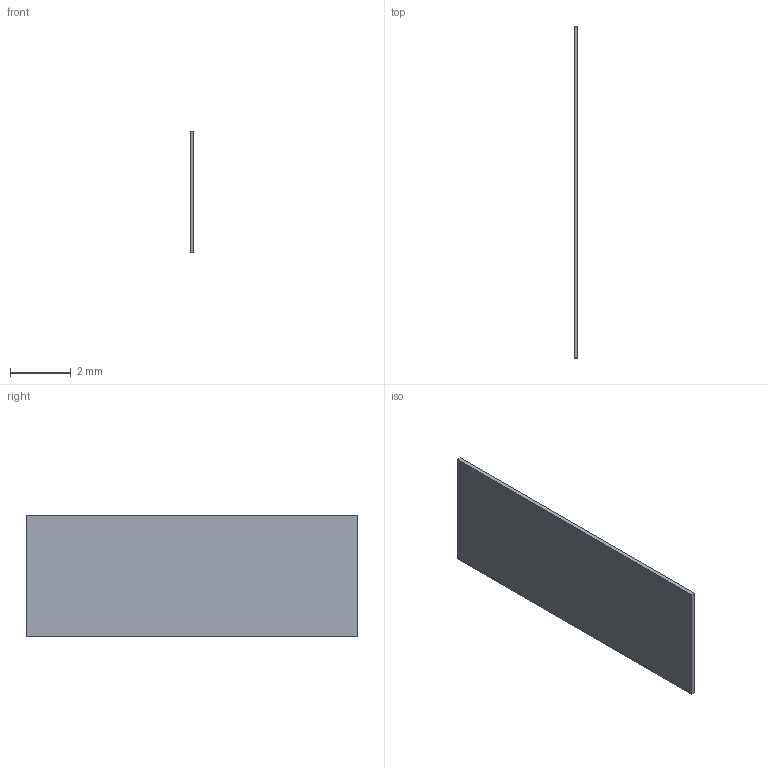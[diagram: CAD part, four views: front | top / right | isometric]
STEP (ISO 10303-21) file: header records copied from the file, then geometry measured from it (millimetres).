
FILE_DESCRIPTION(('Open CASCADE Model'),'2;1');
FILE_NAME('Open CASCADE Shape Model','2026-11-23T18:10:19',('Author'),( 'Open CASCADE'),'Open CASCADE STEP processor 8.0','build123d', 'Unknown');
FILE_SCHEMA(('AUTOMOTIVE_DESIGN { 1 0 10303 214 1 1 1 1 }'));
Length unit declared in the file: millimetre
Products named in the file (2): =>[0:1:1:2]; COMPOUND
Assembly tree (1 placements, depth 2):
  =>[0:1:1:2]
    COMPOUND
Bounding box: 0.13 x 10.9 x 4 mm (x, y, z)
Volume: 5.7 mm3; surface area: 91.1 mm2
Topology: 1 solids, 1 shells, 6 faces, 12 edges, 8 vertices
Faces by surface type: plane 6
Entity records: 340 total; most frequent: CARTESIAN_POINT 52, DIRECTION 52, LINE 36, VECTOR 36, ORIENTED_EDGE 24, PCURVE 24, DEFINITIONAL_REPRESENTATION 24, EDGE_CURVE 12
